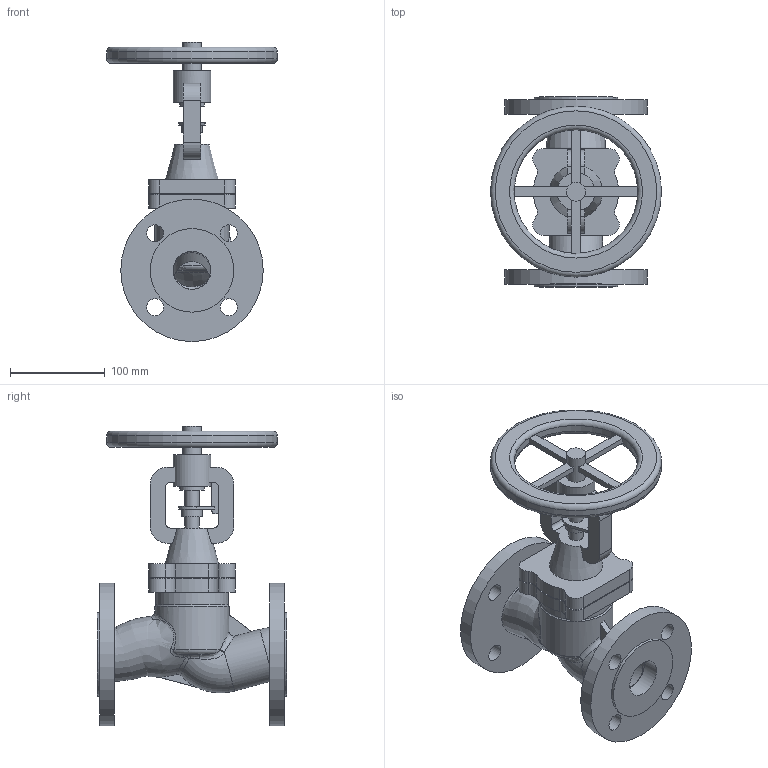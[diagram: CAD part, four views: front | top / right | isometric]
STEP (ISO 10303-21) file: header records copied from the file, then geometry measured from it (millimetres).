
FILE_DESCRIPTION(('STEP AP203'), '1');
FILE_NAME('孰囡囗 玎镱痦 BV1F DN40', '', ('UNSPECIFIED'), ('UNSPECIFIED'), 'ASCON STEP Converter 1.6', 'ASCON Math Kernel', '');
FILE_SCHEMA(('CONFIG_CONTROL_DESIGN'));
Length unit declared in the file: millimetre
Bounding box: 180 x 200 x 315 mm (x, y, z)
Volume: 1607373.6 mm3; surface area: 247198.2 mm2
Topology: 1 solids, 2 shells, 194 faces, 533 edges, 361 vertices
Faces by surface type: plane 90, cylinder 67, bspline 22, torus 14, cone 1
Full cylindrical faces by diameter (mm): 15 x2, 18 x8, 20 x1, 22 x1, 26 x1, 40 x4, 56 x1, 76 x1, 78 x1, 80 x1, 88 x2, 130 x1, 150 x2, 180 x1
Entity records: 47195 total; most frequent: CARTESIAN_POINT 40838, ORIENTED_EDGE 990, DIRECTION 929, EDGE_CURVE 495, AXIS2_PLACEMENT_3D 375, VERTEX_POINT 361, EDGE_LOOP 278, FACE_BOUND 241
